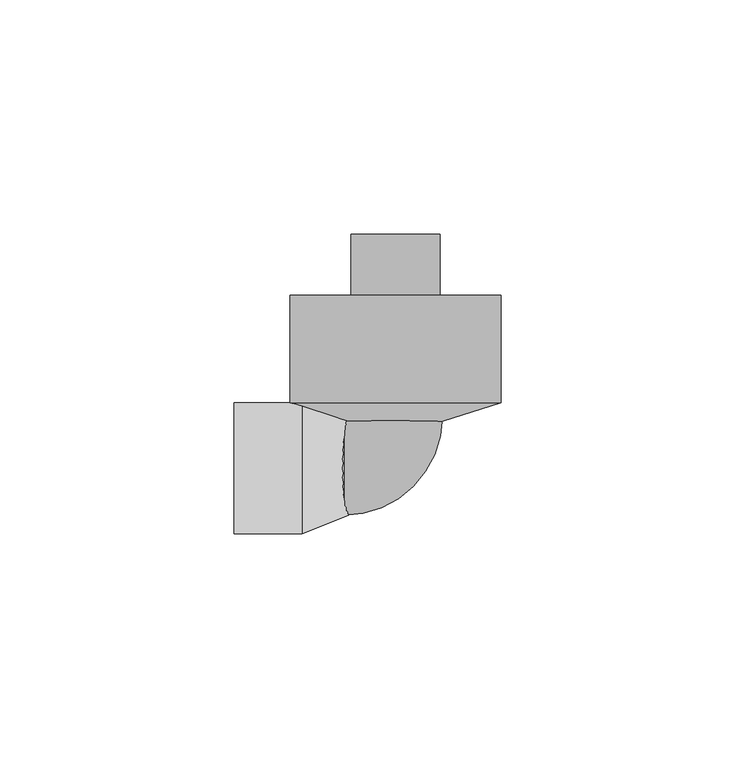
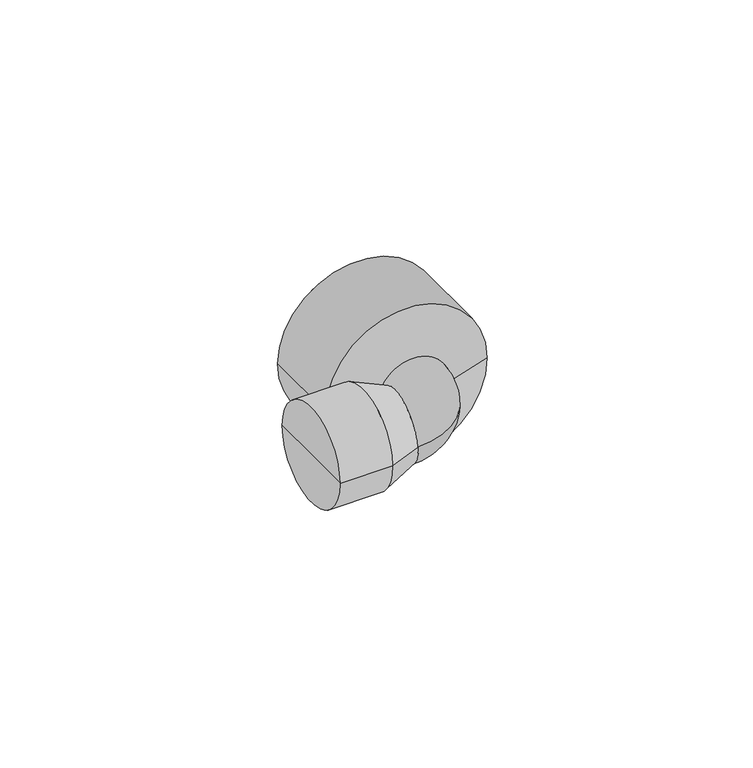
"""IFC4 building model written with IfcOpenShell, lengths in millimetres: pipe fitting geometry, KAN-therm PP kolano gz 3_4 : KAN-therm PP kolano gz 3_4."""

from ifc_helpers import new_model, si_unit, point, frame, origin, place, context, project, spatial, polyline, circle_curve, ellipse_curve, trimmed, source, transform, mapped, element, save
from ifc_brep_helpers import plane_surface, cylinder_surface, revolved_surface, advanced_brep


def pipe_fitting_25df7227(model_context):
    return source(origin(), model_context, "Body", "AdvancedBrep", [
        advanced_brep(
        [(0.0, 50.0, 0.0), (9.525, 50.0, 0.0), (-9.525, 50.0, 0.0), (-9.525, 37.0, 0.0), (9.525, 37.0, 0.0), (0.0, 37.0, 0.0)],
        [
            (0, 1),
            (1, 2, circle_curve(frame((0.0, 50.0, 0.0), z_axis=(0.0, 1.0, 0.0), x_axis=(1.0, 0.0, 0.0)), 9.525)),
            (2, 0),
            (2, 1, circle_curve(frame((0.0, 50.0, 0.0), z_axis=(0.0, 1.0, 0.0), x_axis=(1.0, 0.0, 0.0)), 9.525)),
            (3, 4, circle_curve(frame((0.0, 37.0, 0.0), z_axis=(0.0, -1.0, 0.0), x_axis=(1.0, 0.0, 0.0)), 9.525)),
            (4, 5),
            (5, 3),
            (4, 3, circle_curve(frame((0.0, 37.0, 0.0), z_axis=(0.0, -1.0, 0.0), x_axis=(1.0, 0.0, 0.0)), 9.525)),
            (1, 4),
            (3, 2),
        ],
        [
            plane_surface(frame((0.0, 50.0, 0.0), z_axis=(0.0, 1.0, 0.0), x_axis=(1.0, 0.0, 0.0))),
            plane_surface(frame((0.0, 37.0, 0.0), z_axis=(0.0, -1.0, 0.0), x_axis=(1.0, 0.0, 0.0))),
            cylinder_surface(frame((0.0, 2002.0, 0.0), z_axis=(0.0, 1.0, 0.0), x_axis=(1.0, 0.0, 0.0)), 9.525),
        ],
        [
            (0, [[1, 2, 3]]),
            (0, [[-3, 4, -1]]),
            (1, [[5, 6, 7]]),
            (1, [[8, -7, -6]]),
            (2, [[-2, 9, -5, 10]]),
            (2, [[-4, -10, -8, -9]]),
        ],
    ),
        advanced_brep(
        [(-10.0, 25.5, 0.0), (10.0, 25.5, 0.0), (-10.0, 11.0, 0.0), (10.0, 11.0, 0.0), (-20.0, 10.0, 0.0), (-20.0, -10.0, 0.0), (-11.0, -10.0, 0.0), (-11.0, 10.0, 0.0)],
        [
            (0, 1, circle_curve(frame((0.0, 25.5, 0.0), z_axis=(0.0, 1.0, 0.0), x_axis=(1.0, 0.0, 0.0)), 10.0)),
            (1, 0, circle_curve(frame((0.0, 25.5, 0.0), z_axis=(0.0, 1.0, 0.0), x_axis=(1.0, 0.0, 0.0)), 10.0)),
            (0, 2),
            (2, 3, circle_curve(frame((0.0, 11.0, 0.0), z_axis=(0.0, 1.0, 0.0), x_axis=(1.0, 0.0, 0.0)), 10.0)),
            (3, 1),
            (3, 2, circle_curve(frame((0.0, 11.0, 0.0), z_axis=(0.0, 1.0, 0.0), x_axis=(1.0, 0.0, 0.0)), 10.0)),
            (4, 5, circle_curve(frame((-20.0, 0.0, 0.0), z_axis=(-1.0, 0.0, 0.0), x_axis=(0.0, -1.0, 0.0)), 10.0)),
            (5, 4, circle_curve(frame((-20.0, 0.0, 0.0), z_axis=(-1.0, 0.0, 0.0), x_axis=(0.0, -1.0, 0.0)), 10.0)),
            (6, 7, circle_curve(frame((-11.0, 0.0, 0.0), z_axis=(-1.0, 0.0, 0.0), x_axis=(0.0, -1.0, 0.0)), 10.0)),
            (7, 4),
            (5, 6),
            (7, 6, circle_curve(frame((-11.0, 0.0, 0.0), z_axis=(-1.0, 0.0, 0.0), x_axis=(0.0, -1.0, 0.0)), 10.0)),
            (6, 3, circle_curve(frame((-11.0, 11.0, 0.0), z_axis=(0.0, 0.0, 1.0), x_axis=(1.0, 0.0, 0.0)), 21.0)),
            (2, 7, circle_curve(frame((-11.0, 11.0, 0.0), z_axis=(0.0, 0.0, -1.0), x_axis=(1.0, 0.0, 0.0)), 1.0)),
        ],
        [
            plane_surface(frame((0.0, 25.5, 0.0), z_axis=(0.0, 1.0, 0.0), x_axis=(0.0, 0.0, 1.0))),
            cylinder_surface(frame((0.0, 25.5, 0.0), z_axis=(0.0, 1.0, 0.0), x_axis=(1.0, 0.0, 0.0)), 10.0),
            plane_surface(frame((-20.0, 0.0, 0.0), z_axis=(-1.0, 0.0, 0.0), x_axis=(0.0, 0.0, 1.0))),
            cylinder_surface(frame((-11.0, 0.0, 0.0), z_axis=(1.0, 0.0, 0.0), x_axis=(0.0, -1.0, 0.0)), 10.0),
            revolved_surface(trimmed(ellipse_curve(frame((0.0, 11.0, 0.0), z_axis=(0.0, 1.0, 0.0), x_axis=(1.0, 0.0, 0.0)), 10.0, 10.0), [point((-10.0, 11.0, 0.0))], [point((10.0, 11.0, 0.0))], True, "CARTESIAN"), (-11.0, 11.0, 0.0), (0.0, 0.0, -1.0)),
            revolved_surface(trimmed(ellipse_curve(frame((0.0, 11.0, 0.0), z_axis=(0.0, 1.0, 0.0), x_axis=(1.0, 0.0, 0.0)), 10.0, 10.0), [point((10.0, 11.0, 0.0))], [point((-10.0, 11.0, 0.0))], True, "CARTESIAN"), (-11.0, 11.0, 0.0), (0.0, 0.0, -1.0)),
        ],
        [
            (0, [[1, 2]]),
            (1, [[-1, 3, 4, 5]]),
            (1, [[-2, -5, 6, -3]]),
            (2, [[7, 8]]),
            (3, [[9, 10, -8, 11]]),
            (3, [[12, -11, -7, -10]]),
            (4, [[13, -4, 14, -9]]),
            (5, [[-14, -6, -13, -12]]),
        ],
    ),
        advanced_brep(
        [(0.0, 37.0, 0.0), (22.5, 37.0, 0.0), (-22.5, 37.0, 0.0), (-10.0, 10.0, 0.0), (10.0, 10.0, 0.0), (0.0, 10.0, 0.0), (22.5, 14.0, 0.0), (-22.5, 14.0, 0.0)],
        [
            (0, 1),
            (1, 2, circle_curve(frame((0.0, 37.0, 0.0), z_axis=(0.0, 1.0, 0.0), x_axis=(1.0, 0.0, 0.0)), 22.5)),
            (2, 0),
            (2, 1, circle_curve(frame((0.0, 37.0, 0.0), z_axis=(0.0, 1.0, 0.0), x_axis=(1.0, 0.0, 0.0)), 22.5)),
            (3, 4, circle_curve(frame((0.0, 10.0, 0.0), z_axis=(0.0, -1.0, 0.0), x_axis=(1.0, 0.0, 0.0)), 10.0)),
            (4, 5),
            (5, 3),
            (4, 3, circle_curve(frame((0.0, 10.0, 0.0), z_axis=(0.0, -1.0, 0.0), x_axis=(1.0, 0.0, 0.0)), 10.0)),
            (1, 6),
            (6, 7, circle_curve(frame((0.0, 14.0, 0.0), z_axis=(0.0, 1.0, 0.0), x_axis=(1.0, 0.0, 0.0)), 22.5)),
            (7, 2),
            (7, 6, circle_curve(frame((0.0, 14.0, 0.0), z_axis=(0.0, 1.0, 0.0), x_axis=(1.0, 0.0, 0.0)), 22.5)),
            (6, 4),
            (3, 7),
        ],
        [
            plane_surface(frame((0.0, 37.0, 0.0), z_axis=(0.0, 1.0, 0.0), x_axis=(1.0, 0.0, 0.0))),
            plane_surface(frame((0.0, 10.0, 0.0), z_axis=(0.0, -1.0, 0.0), x_axis=(1.0, 0.0, 0.0))),
            cylinder_surface(frame((0.0, 2013.0, 0.0), z_axis=(0.0, 1.0, 0.0), x_axis=(1.0, 0.0, 0.0)), 22.5),
            revolved_surface(polyline([(10.0, 10.0, 0.0), (22.5, 14.0, 0.0)]), (0.0, 2013.0, 0.0), (0.0, 1.0, 0.0)),
        ],
        [
            (0, [[1, 2, 3]]),
            (0, [[-3, 4, -1]]),
            (1, [[5, 6, 7]]),
            (1, [[8, -7, -6]]),
            (2, [[-2, 9, 10, 11]]),
            (2, [[-4, -11, 12, -9]]),
            (3, [[-10, 13, -5, 14]]),
            (3, [[-12, -14, -8, -13]]),
        ],
    ),
        advanced_brep(
        [(-20.0, 14.0, 0.0), (-20.0, -14.0, 0.0), (-34.5, -14.0, 0.0), (-34.5, 14.0, 0.0), (-10.0, 0.0, 0.0), (-10.0, -10.0, 0.0), (-10.0, 10.0, 0.0), (-34.5, 0.0, 0.0)],
        [
            (0, 1, circle_curve(frame((-20.0, 0.0, 0.0), z_axis=(-1.0, 0.0, 0.0), x_axis=(0.0, -1.0, 0.0)), 14.0)),
            (1, 2),
            (2, 3, circle_curve(frame((-34.5, 0.0, 0.0), z_axis=(1.0, 0.0, 0.0), x_axis=(0.0, -1.0, 0.0)), 14.0)),
            (3, 0),
            (1, 0, circle_curve(frame((-20.0, 0.0, 0.0), z_axis=(-1.0, 0.0, 0.0), x_axis=(0.0, -1.0, 0.0)), 14.0)),
            (3, 2, circle_curve(frame((-34.5, 0.0, 0.0), z_axis=(1.0, 0.0, 0.0), x_axis=(0.0, -1.0, 0.0)), 14.0)),
            (4, 5),
            (5, 6, circle_curve(frame((-10.0, 0.0, 0.0), z_axis=(1.0, 0.0, 0.0), x_axis=(0.0, -1.0, 0.0)), 10.0)),
            (6, 4),
            (6, 5, circle_curve(frame((-10.0, 0.0, 0.0), z_axis=(1.0, 0.0, 0.0), x_axis=(0.0, -1.0, 0.0)), 10.0)),
            (2, 7),
            (7, 3),
            (5, 1),
            (0, 6),
        ],
        [
            cylinder_surface(frame((2003.0, 0.0, 0.0), z_axis=(1.0, 0.0, 0.0), x_axis=(0.0, -1.0, 0.0)), 14.0),
            plane_surface(frame((-10.0, 0.0, 0.0), z_axis=(1.0, 0.0, 0.0), x_axis=(0.0, -1.0, 0.0))),
            plane_surface(frame((-34.5, 0.0, 0.0), z_axis=(-1.0, 0.0, 0.0), x_axis=(0.0, -1.0, 0.0))),
            revolved_surface(polyline([(-20.0, -14.0, 0.0), (-10.0, -10.0, 0.0)]), (2003.0, 0.0, 0.0), (1.0, 0.0, 0.0)),
        ],
        [
            (0, [[1, 2, 3, 4]]),
            (0, [[5, -4, 6, -2]]),
            (1, [[7, 8, 9]]),
            (1, [[-9, 10, -7]]),
            (2, [[-3, 11, 12]]),
            (2, [[-6, -12, -11]]),
            (3, [[-8, 13, -1, 14]]),
            (3, [[-10, -14, -5, -13]]),
        ],
    ),
    ])


if __name__ == "__main__":
    model = new_model("IFC4")
    model_context = context("Model", 3, world=origin())
    ifc_project = project(units=[si_unit("LENGTHUNIT", "METRE", prefix="MILLI")], contexts=[model_context])
    site = spatial("IfcSite", under=ifc_project)
    building = spatial("IfcBuilding", under=site)
    placement = place(None, origin())
    pipe_fitting_shape = pipe_fitting_25df7227(model_context)
    element("IfcPipeFitting", 1, ObjectType="KAN-therm PP kolano gz 3_4 : KAN-therm PP kolano gz 3_4", at=placement, inside=building, context=model_context, shape_type="MappedRepresentation", body=[
        mapped(pipe_fitting_shape, transform((0.0, 0.0, 0.0), x_axis=(1.0, 0.0, 0.0), y_axis=(0.0, 1.0, 0.0), z_axis=(0.0, 0.0, 1.0))),
    ])
    save(model, "model.ifc")
